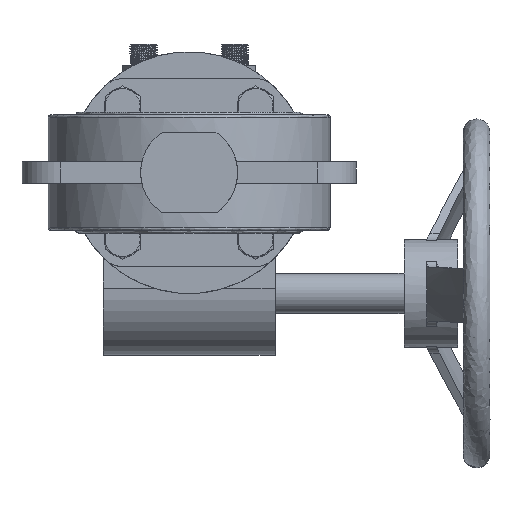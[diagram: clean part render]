
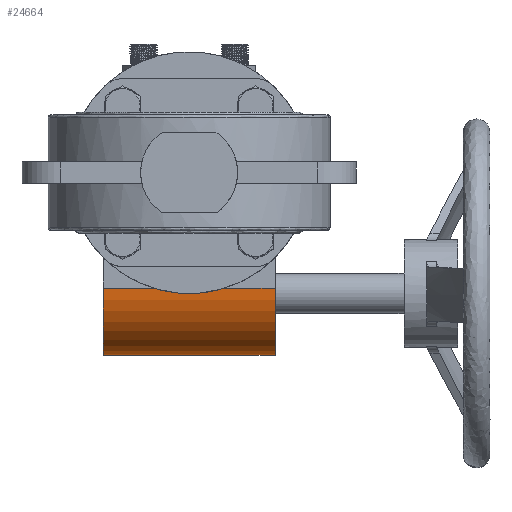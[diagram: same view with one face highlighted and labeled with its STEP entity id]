
A CAD part, front view. The second image highlights one B-rep face of the part: STEP entity #24664.
In plain terms, the highlighted cylindrical face has radius 25 mm (diameter 50 mm), a partial arc.
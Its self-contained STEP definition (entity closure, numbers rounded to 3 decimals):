
#543 = DIRECTION ( 'NONE',  ( 1., 0., 0. ) ) ;
#3368 = ORIENTED_EDGE ( 'NONE', *, *, #42062, .T. ) ;
#3602 = CARTESIAN_POINT ( 'NONE',  ( -4.371, 152.404, -43. ) ) ;
#3672 = DIRECTION ( 'NONE',  ( 0., 0., 1. ) ) ;
#4426 = ORIENTED_EDGE ( 'NONE', *, *, #41331, .F. ) ;
#4508 = VECTOR ( 'NONE', #27615, 1000. ) ;
#5988 = CIRCLE ( 'NONE', #16091, 25. ) ;
#9091 = ORIENTED_EDGE ( 'NONE', *, *, #21190, .T. ) ;
#9150 = VERTEX_POINT ( 'NONE', #26395 ) ;
#9349 = LINE ( 'NONE', #13969, #18916 ) ;
#9742 = CARTESIAN_POINT ( 'NONE',  ( -49.637, 177.404, -43. ) ) ;
#13625 = CARTESIAN_POINT ( 'NONE',  ( -17.637, 177.404, -68. ) ) ;
#13969 = CARTESIAN_POINT ( 'NONE',  ( -17.637, 152.404, -43. ) ) ;
#14848 = ORIENTED_EDGE ( 'NONE', *, *, #47750, .T. ) ;
#14859 = FACE_OUTER_BOUND ( 'NONE', #24345, .T. ) ;
#15515 = DIRECTION ( 'NONE',  ( -1., 0., 0. ) ) ;
#16091 = AXIS2_PLACEMENT_3D ( 'NONE', #9742, #39692, #24556 ) ;
#17744 = DIRECTION ( 'NONE',  ( 1., 0., 0. ) ) ;
#17868 = CARTESIAN_POINT ( 'NONE',  ( 14.363, 152.404, -43. ) ) ;
#18916 = VECTOR ( 'NONE', #43652, 1000. ) ;
#18993 = VECTOR ( 'NONE', #17744, 1000. ) ;
#19259 = ORIENTED_EDGE ( 'NONE', *, *, #28759, .T. ) ;
#19281 = DIRECTION ( 'NONE',  ( 0., 0., 1. ) ) ;
#21190 = EDGE_CURVE ( 'NONE', #9150, #28049, #9349, .T. ) ;
#22156 = CARTESIAN_POINT ( 'NONE',  ( -17.637, 177.404, -43. ) ) ;
#22452 = VERTEX_POINT ( 'NONE', #33381 ) ;
#22756 = AXIS2_PLACEMENT_3D ( 'NONE', #33944, #543, #19281 ) ;
#23072 = AXIS2_PLACEMENT_3D ( 'NONE', #22156, #37063, #3672 ) ;
#24345 = EDGE_LOOP ( 'NONE', ( #19259, #41490, #4426, #3368, #14848, #9091 ) ) ;
#24556 = DIRECTION ( 'NONE',  ( 0., 0., 1. ) ) ;
#24664 = ADVANCED_FACE ( 'NONE', ( #14859 ), #29474, .T. ) ;
#25866 = CIRCLE ( 'NONE', #22756, 25. ) ;
#26395 = CARTESIAN_POINT ( 'NONE',  ( -30.904, 152.404, -43. ) ) ;
#27615 = DIRECTION ( 'NONE',  ( -1., 0., 0. ) ) ;
#28049 = VERTEX_POINT ( 'NONE', #36070 ) ;
#28759 = EDGE_CURVE ( 'NONE', #28049, #31451, #5988, .T. ) ;
#29474 = CYLINDRICAL_SURFACE ( 'NONE', #23072, 25. ) ;
#30146 = CARTESIAN_POINT ( 'NONE',  ( -17.637, 152.404, -43. ) ) ;
#31324 = LINE ( 'NONE', #41802, #4508 ) ;
#31451 = VERTEX_POINT ( 'NONE', #42526 ) ;
#33381 = CARTESIAN_POINT ( 'NONE',  ( 14.363, 177.404, -68. ) ) ;
#33762 = VECTOR ( 'NONE', #15515, 1000. ) ;
#33944 = CARTESIAN_POINT ( 'NONE',  ( 14.363, 177.404, -43. ) ) ;
#34064 = LINE ( 'NONE', #30146, #33762 ) ;
#36070 = CARTESIAN_POINT ( 'NONE',  ( -49.637, 152.404, -43. ) ) ;
#37063 = DIRECTION ( 'NONE',  ( -1., 0., 0. ) ) ;
#39520 = VERTEX_POINT ( 'NONE', #17868 ) ;
#39692 = DIRECTION ( 'NONE',  ( 1., 0., 0. ) ) ;
#41331 = EDGE_CURVE ( 'NONE', #39520, #22452, #25866, .T. ) ;
#41490 = ORIENTED_EDGE ( 'NONE', *, *, #42740, .T. ) ;
#41802 = CARTESIAN_POINT ( 'NONE',  ( -17.637, 152.404, -43. ) ) ;
#41928 = VERTEX_POINT ( 'NONE', #3602 ) ;
#42062 = EDGE_CURVE ( 'NONE', #39520, #41928, #34064, .T. ) ;
#42526 = CARTESIAN_POINT ( 'NONE',  ( -49.637, 177.404, -68. ) ) ;
#42740 = EDGE_CURVE ( 'NONE', #31451, #22452, #47711, .T. ) ;
#43652 = DIRECTION ( 'NONE',  ( -1., 0., 0. ) ) ;
#47711 = LINE ( 'NONE', #13625, #18993 ) ;
#47750 = EDGE_CURVE ( 'NONE', #41928, #9150, #31324, .T. ) ;
